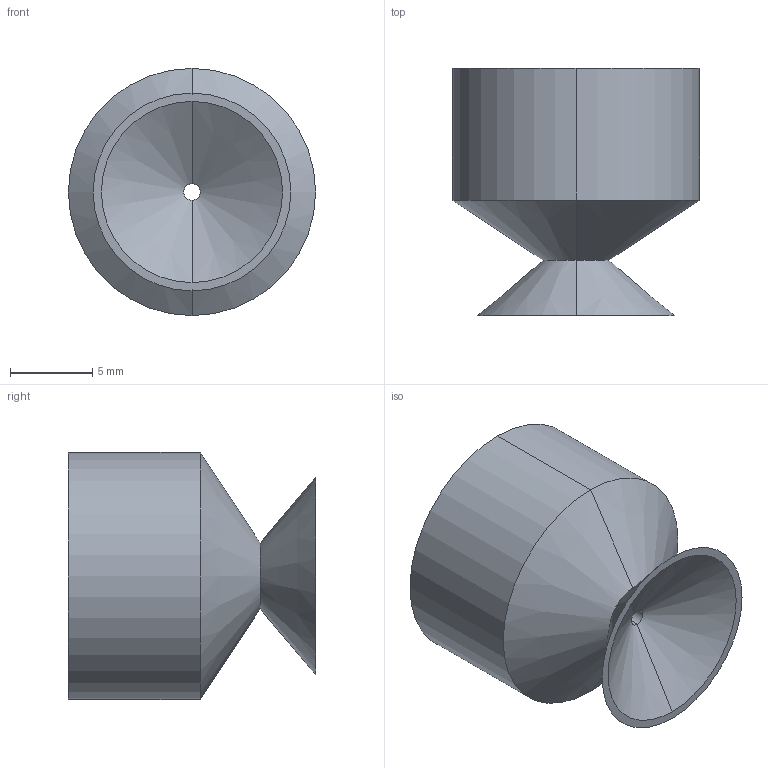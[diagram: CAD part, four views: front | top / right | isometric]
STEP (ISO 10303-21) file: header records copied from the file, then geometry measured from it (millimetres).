
FILE_DESCRIPTION (( 'STEP AP214' ), '1' );
FILE_NAME ('VSH-M12.STEP', '2019-11-30T09:08:12', ( '微软用户' ), ( '微软中国' ), 'SwSTEP 2.0', 'SolidWorks 2016', '' );
FILE_SCHEMA (( 'AUTOMOTIVE_DESIGN' ));
Length unit declared in the file: millimetre
Products named in the file (1): VSH-M12
Bounding box: 15 x 15 x 15 mm (x, y, z)
Volume: 1271.2 mm3; surface area: 1343.4 mm2
Topology: 1 solids, 1 shells, 18 faces, 36 edges, 22 vertices
Faces by surface type: cylinder 8, cone 6, plane 4
Entity records: 512 total; most frequent: DIRECTION 96, CARTESIAN_POINT 77, ORIENTED_EDGE 72, AXIS2_PLACEMENT_3D 41, EDGE_CURVE 36, CIRCLE 22, VERTEX_POINT 22, EDGE_LOOP 22
